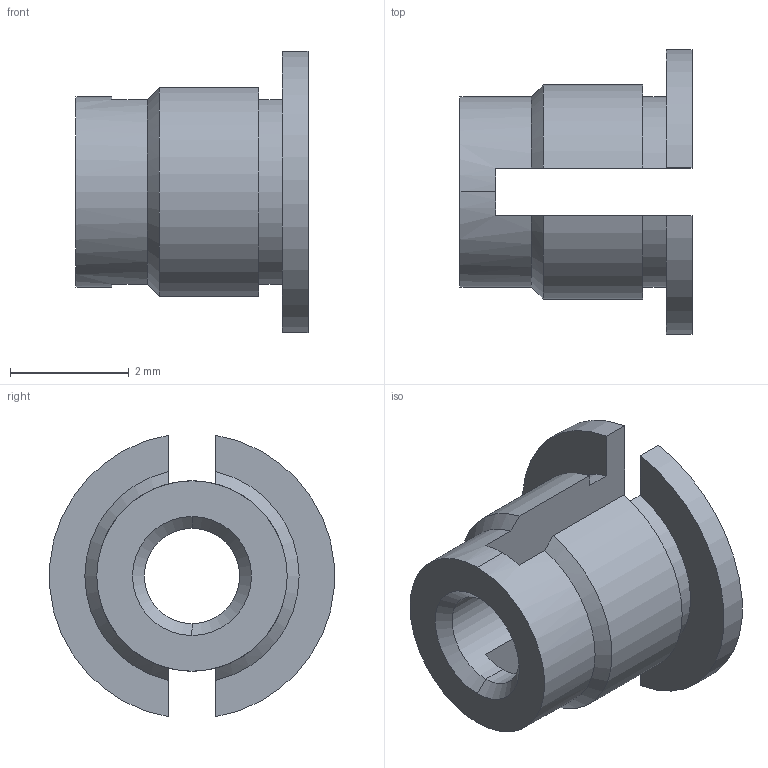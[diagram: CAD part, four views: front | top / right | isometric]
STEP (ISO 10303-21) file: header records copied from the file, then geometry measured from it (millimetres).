
FILE_DESCRIPTION (( 'STEP AP203' ), '1' );
FILE_NAME ('FSUK-EXPR-M02-S.STEP', '2021-04-15T17:23:11', ( '' ), ( '' ), 'SwSTEP 2.0', 'SolidWorks 2021', '' );
FILE_SCHEMA (( 'CONFIG_CONTROL_DESIGN' ));
Length unit declared in the file: millimetre
Products named in the file (1): FSUK-EXPR-M02-S
Bounding box: 3.9 x 4.78 x 4.73 mm (x, y, z)
Volume: 26 mm3; surface area: 97.7 mm2
Topology: 1 solids, 1 shells, 29 faces, 82 edges, 54 vertices
Faces by surface type: plane 13, cylinder 10, cone 6
Entity records: 1041 total; most frequent: CARTESIAN_POINT 190, DIRECTION 166, ORIENTED_EDGE 164, EDGE_CURVE 82, AXIS2_PLACEMENT_3D 62, VERTEX_POINT 54, LINE 42, VECTOR 42
